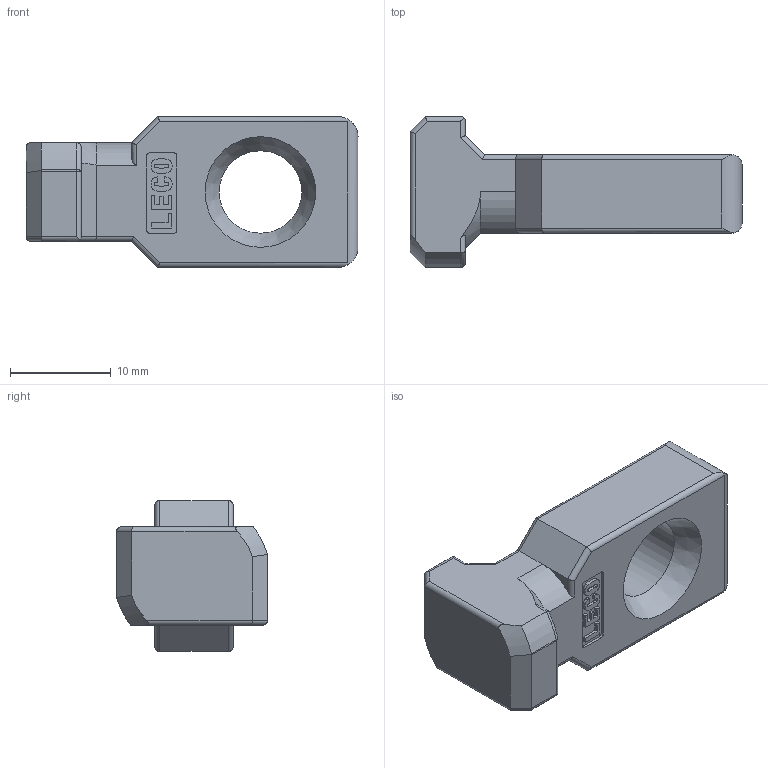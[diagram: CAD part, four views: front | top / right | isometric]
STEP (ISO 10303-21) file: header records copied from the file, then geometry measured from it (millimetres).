
FILE_DESCRIPTION(('STEP AP214'),'1');
FILE_NAME('TA40.stp','2017-07-26T07:33:01',(' '),(' '),'Spatial InterOp 3D',' ',' ');
FILE_SCHEMA(('automotive_design'));
Length unit declared in the file: millimetre
Products named in the file (1): TA40
Bounding box: 33 x 15 x 15 mm (x, y, z)
Volume: 3244.9 mm3; surface area: 1781.8 mm2
Topology: 1 solids, 1 shells, 131 faces, 346 edges, 222 vertices
Faces by surface type: cylinder 70, plane 50, cone 5, bspline 3, sphere 2, torus 1
Full cylindrical faces by diameter (mm): 8.2 x1
Entity records: 5410 total; most frequent: CARTESIAN_POINT 1111, ORIENTED_EDGE 684, DIRECTION 671, EDGE_CURVE 342, AXIS2_PLACEMENT_3D 242, VERTEX_POINT 221, LINE 187, VECTOR 187
